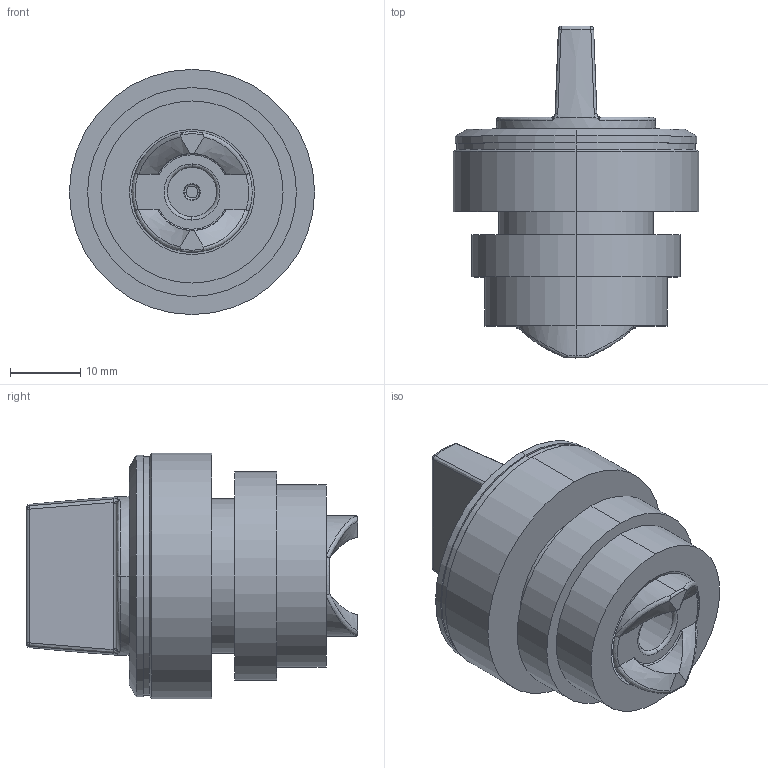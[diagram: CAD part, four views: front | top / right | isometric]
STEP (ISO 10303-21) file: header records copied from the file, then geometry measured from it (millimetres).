
FILE_DESCRIPTION (( 'STEP AP203' ), '1' );
FILE_NAME ('B5KN2.STEP', '2013-06-18T09:54:08', ( 'edv' ), ( '' ), 'SwSTEP 2.0', 'SolidWorks 2013', '' );
FILE_SCHEMA (( 'CONFIG_CONTROL_DESIGN' ));
Length unit declared in the file: millimetre
Products named in the file (1): B5KN2
Bounding box: 34.99 x 47.35 x 34.99 mm (x, y, z)
Volume: 15793 mm3; surface area: 8399.6 mm2
Topology: 3 solids, 3 shells, 110 faces, 270 edges, 166 vertices
Faces by surface type: bspline 49, cylinder 33, plane 20, cone 8
Entity records: 8292 total; most frequent: CARTESIAN_POINT 6045, ORIENTED_EDGE 528, DIRECTION 331, EDGE_CURVE 264, VERTEX_POINT 166, AXIS2_PLACEMENT_3D 141, EDGE_LOOP 120, B_SPLINE_CURVE_WITH_KNOTS 118
